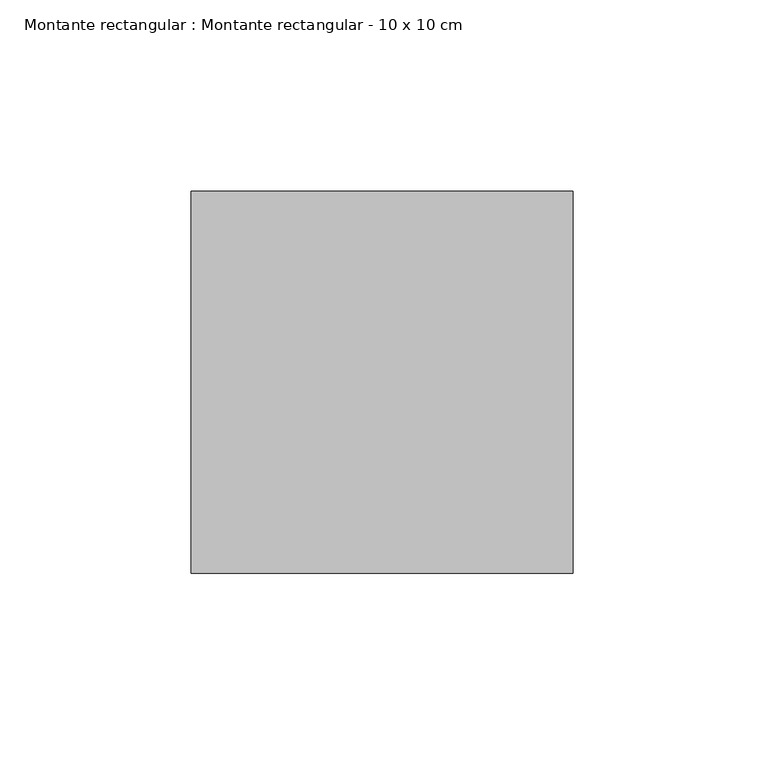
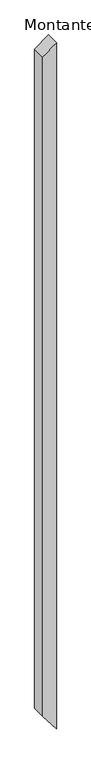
"""IFC4 building model written with IfcOpenShell, lengths in millimetres: member geometry, Montante rectangular : Montante rectangular - 10 x 10 cm."""

from ifc_helpers import new_model, si_unit, frame, origin, place, context, project, spatial, polyline, outline, extrude, source, transform, mapped, element, save


def montante_rectangular_montante_rectangular_10_x_10_cm_c63b47b4(model_context):
    return source(origin(), model_context, "Body", "SweptSolid", [
        extrude(outline(polyline([(0.0, 0.0), (-76.0047951, -100.0), (-5151.2243336, -100.0), (-5282.7949798, 0.0), (0.0, 0.0)])), frame((0.0, -50.0, 0.0), z_axis=(0.0, 1.0, 0.0), x_axis=(0.0, 0.0, 1.0)), (0.0, 0.0, 1.0), 100.0),
    ])


if __name__ == "__main__":
    model = new_model("IFC4")
    model_context = context("Model", 3, world=origin())
    ifc_project = project(units=[si_unit("LENGTHUNIT", "METRE", prefix="MILLI")], contexts=[model_context])
    site = spatial("IfcSite", under=ifc_project)
    building = spatial("IfcBuilding", under=site)
    placement = place(None, origin())
    montante_rectangular_montante_rectangular_10_x_10_cm_shape = montante_rectangular_montante_rectangular_10_x_10_cm_c63b47b4(model_context)
    element("IfcMember", 1, ObjectType="Montante rectangular : Montante rectangular - 10 x 10 cm", at=placement, inside=building, context=model_context, shape_type="MappedRepresentation", body=[
        mapped(montante_rectangular_montante_rectangular_10_x_10_cm_shape, transform((0.0, 0.0, 0.0), x_axis=(1.0, 0.0, 0.0), y_axis=(0.0, 1.0, 0.0), z_axis=(0.0, 0.0, 1.0))),
    ])
    save(model, "model.ifc")
